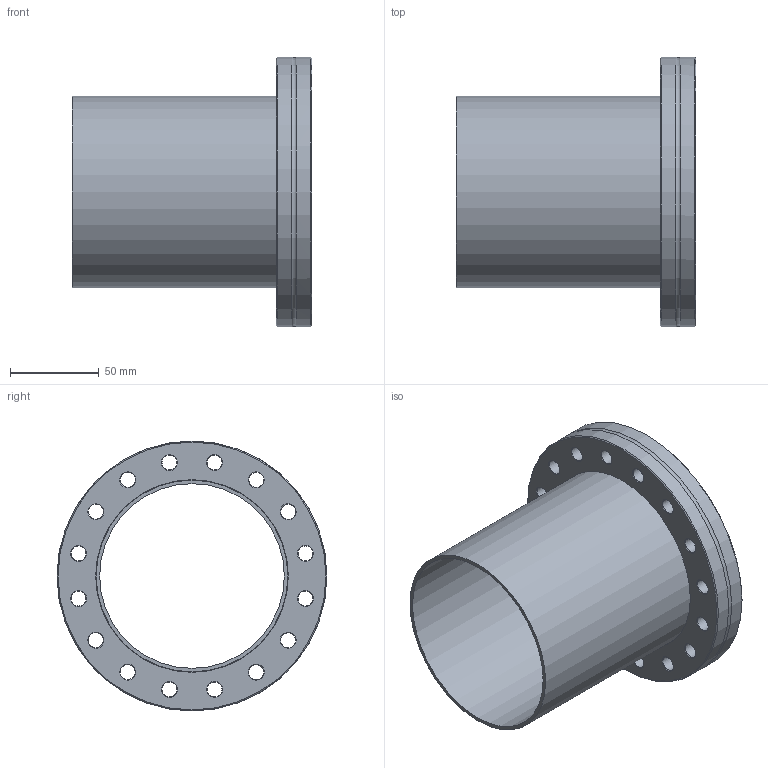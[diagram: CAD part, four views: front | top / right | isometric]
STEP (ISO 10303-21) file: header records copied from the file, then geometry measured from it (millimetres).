
FILE_DESCRIPTION((''),'2;1');
FILE_NAME('W:\13785_CF_Global_Fit_Umsetzung\082_Flange_with_Tube\M213-054.stp','2010-09-01T11:22:05',('KAA'),(''),'Autodesk Inventor 2011','Autodesk Inventor 2011','');
FILE_SCHEMA(('AUTOMOTIVE_DESIGN { 1 0 10303 214 1 1 1 1 }'));
Length unit declared in the file: millimetre
Products named in the file (1): 213-054
Bounding box: 135 x 152 x 152 mm (x, y, z)
Volume: 244577.7 mm3; surface area: 126331 mm2
Topology: 1 solids, 1 shells, 75 faces, 183 edges, 114 vertices
Faces by surface type: cone 39, cylinder 24, plane 7, torus 5
Full cylindrical faces by diameter (mm): 8.4 x16, 104 x2, 108 x1, 108.5 x2, 152 x2
Entity records: 1916 total; most frequent: DIRECTION 334, CARTESIAN_POINT 305, ORIENTED_EDGE 198, EDGE_LOOP 178, AXIS2_PLACEMENT_3D 166, FACE_BOUND 103, EDGE_CURVE 99, VERTEX_POINT 95
